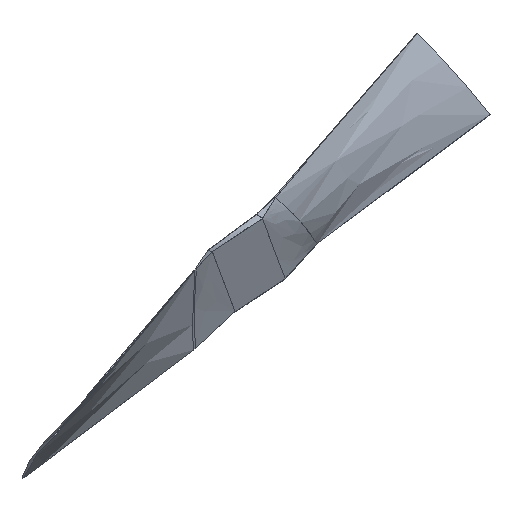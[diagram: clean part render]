
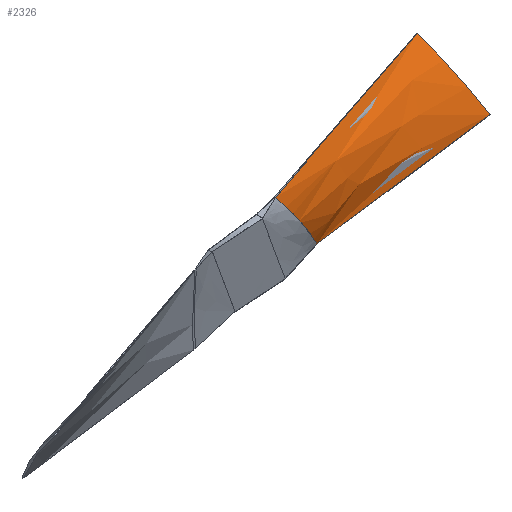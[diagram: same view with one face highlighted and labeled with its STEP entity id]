
A CAD part, isometric view. The second image highlights one B-rep face of the part: STEP entity #2326.
In plain terms, the highlighted free-form (B-spline) face has degree [3, 3] with [5, 4] control points.
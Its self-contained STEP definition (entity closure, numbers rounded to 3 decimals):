
#2245=CARTESIAN_POINT('Control Point',(133.487,64.891,10.212)) ;
#2246=CARTESIAN_POINT('Control Point',(100.569,69.587,0.027)) ;
#2247=CARTESIAN_POINT('Control Point',(67.652,74.284,-10.157)) ;
#2248=CARTESIAN_POINT('Control Point',(34.735,78.981,-20.342)) ;
#2249=CARTESIAN_POINT('Control Point',(130.667,68.243,16.946)) ;
#2250=CARTESIAN_POINT('Control Point',(98.053,71.058,6.554)) ;
#2251=CARTESIAN_POINT('Control Point',(65.439,73.872,-3.838)) ;
#2252=CARTESIAN_POINT('Control Point',(32.824,76.686,-14.23)) ;
#2253=CARTESIAN_POINT('Control Point',(125.086,76.101,29.862)) ;
#2254=CARTESIAN_POINT('Control Point',(92.888,75.508,19.463)) ;
#2255=CARTESIAN_POINT('Control Point',(60.689,74.915,9.065)) ;
#2256=CARTESIAN_POINT('Control Point',(28.491,74.322,-1.334)) ;
#2257=CARTESIAN_POINT('Control Point',(119.755,86.045,41.371)) ;
#2258=CARTESIAN_POINT('Control Point',(87.72,82.925,31.374)) ;
#2259=CARTESIAN_POINT('Control Point',(55.685,79.806,21.377)) ;
#2260=CARTESIAN_POINT('Control Point',(23.649,76.686,11.38)) ;
#2261=CARTESIAN_POINT('Control Point',(117.187,91.482,46.697)) ;
#2262=CARTESIAN_POINT('Control Point',(85.206,87.315,36.903)) ;
#2263=CARTESIAN_POINT('Control Point',(53.225,83.148,27.109)) ;
#2264=CARTESIAN_POINT('Control Point',(21.245,78.981,17.315)) ;
#2266=CARTESIAN_POINT('Control Point',(117.187,91.482,46.697)) ;
#2267=CARTESIAN_POINT('Control Point',(85.206,87.315,36.903)) ;
#2268=CARTESIAN_POINT('Control Point',(53.225,83.148,27.109)) ;
#2269=CARTESIAN_POINT('Control Point',(21.245,78.981,17.315)) ;
#2270=CARTESIAN_POINT('Vertex',(117.189,91.478,46.694)) ;
#2272=CARTESIAN_POINT('Vertex',(21.245,78.981,17.315)) ;
#2276=CARTESIAN_POINT('Control Point',(21.245,78.981,17.314)) ;
#2277=CARTESIAN_POINT('Control Point',(22.968,78.042,14.867)) ;
#2278=CARTESIAN_POINT('Control Point',(25.019,77.102,11.93)) ;
#2279=CARTESIAN_POINT('Control Point',(27.237,76.352,8.686)) ;
#2280=CARTESIAN_POINT('Control Point',(29.562,75.846,5.221)) ;
#2281=CARTESIAN_POINT('Control Point',(31.953,75.628,1.602)) ;
#2282=CARTESIAN_POINT('Vertex',(31.953,75.628,1.602)) ;
#2286=CARTESIAN_POINT('Control Point',(31.953,75.628,1.602)) ;
#2287=CARTESIAN_POINT('Control Point',(32.266,75.599,1.129)) ;
#2288=CARTESIAN_POINT('Control Point',(32.577,75.577,0.657)) ;
#2289=CARTESIAN_POINT('Control Point',(32.895,75.56,0.172)) ;
#2290=CARTESIAN_POINT('Vertex',(32.895,75.56,0.172)) ;
#2294=CARTESIAN_POINT('Control Point',(32.895,75.56,0.172)) ;
#2295=CARTESIAN_POINT('Control Point',(35.536,75.422,-3.843)) ;
#2296=CARTESIAN_POINT('Control Point',(38.041,75.652,-7.73)) ;
#2297=CARTESIAN_POINT('Control Point',(40.363,76.174,-11.402)) ;
#2298=CARTESIAN_POINT('Control Point',(42.452,76.911,-14.733)) ;
#2299=CARTESIAN_POINT('Control Point',(44.118,77.641,-17.434)) ;
#2300=CARTESIAN_POINT('Vertex',(44.118,77.641,-17.434)) ;
#2304=CARTESIAN_POINT('Control Point',(133.487,64.891,10.212)) ;
#2305=CARTESIAN_POINT('Control Point',(103.698,69.141,0.995)) ;
#2306=CARTESIAN_POINT('Control Point',(73.91,73.391,-8.221)) ;
#2307=CARTESIAN_POINT('Control Point',(44.121,77.642,-17.438)) ;
#2308=CARTESIAN_POINT('Vertex',(133.487,64.891,10.212)) ;
#2312=CARTESIAN_POINT('Control Point',(133.487,64.891,10.212)) ;
#2313=CARTESIAN_POINT('Control Point',(130.667,68.243,16.946)) ;
#2314=CARTESIAN_POINT('Control Point',(125.086,76.101,29.86)) ;
#2315=CARTESIAN_POINT('Control Point',(119.757,86.042,41.368)) ;
#2316=CARTESIAN_POINT('Control Point',(117.189,91.478,46.694)) ;
#2319=ORIENTED_EDGE('',*,*,#2274,.T.) ;
#2320=ORIENTED_EDGE('',*,*,#2284,.T.) ;
#2321=ORIENTED_EDGE('',*,*,#2292,.T.) ;
#2322=ORIENTED_EDGE('',*,*,#2302,.T.) ;
#2323=ORIENTED_EDGE('',*,*,#2310,.T.) ;
#2324=ORIENTED_EDGE('',*,*,#2317,.T.) ;
#2326=ADVANCED_FACE('ADVANCED_FACE #139',(#2325),#2244,.T.) ;
#2265=B_SPLINE_CURVE_WITH_KNOTS('',3,(#2266,#2267,#2268,#2269),.UNSPECIFIED.,.F.,.U.,(4,4),(0.,102.222),.UNSPECIFIED.) ;
#2275=B_SPLINE_CURVE_WITH_KNOTS('',5,(#2276,#2277,#2278,#2279,#2280,#2281),.UNSPECIFIED.,.F.,.U.,(6,6),(0.,28.559),.UNSPECIFIED.) ;
#2285=B_SPLINE_CURVE_WITH_KNOTS('',3,(#2286,#2287,#2288,#2289),.UNSPECIFIED.,.F.,.U.,(4,4),(0.,2.243),.UNSPECIFIED.) ;
#2293=B_SPLINE_CURVE_WITH_KNOTS('',5,(#2294,#2295,#2296,#2297,#2298,#2299),.UNSPECIFIED.,.F.,.U.,(6,6),(0.,30.984),.UNSPECIFIED.) ;
#2303=B_SPLINE_CURVE_WITH_KNOTS('',3,(#2304,#2305,#2306,#2307),.UNSPECIFIED.,.F.,.U.,(4,4),(0.,92.506),.UNSPECIFIED.) ;
#2311=B_SPLINE_CURVE_WITH_KNOTS('',3,(#2312,#2313,#2314,#2315,#2316),.UNSPECIFIED.,.F.,.U.,(4,1,4),(0.,21.872,43.739),.UNSPECIFIED.) ;
#2244=B_SPLINE_SURFACE_WITH_KNOTS('',3,3,((#2245,#2246,#2247,#2248),(#2249,#2250,#2251,#2252),(#2253,#2254,#2255,#2256),(#2257,#2258,#2259,#2260),(#2261,#2262,#2263,#2264)),.UNSPECIFIED.,.F.,.F.,.U.,(4,1,4),(4,4),(0.,21.872,43.744),(0.,102.222),.UNSPECIFIED.) ;
#2274=EDGE_CURVE('',#2271,#2273,#2265,.T.) ;
#2284=EDGE_CURVE('',#2273,#2283,#2275,.T.) ;
#2292=EDGE_CURVE('',#2283,#2291,#2285,.T.) ;
#2302=EDGE_CURVE('',#2291,#2301,#2293,.T.) ;
#2310=EDGE_CURVE('',#2301,#2309,#2303,.F.) ;
#2317=EDGE_CURVE('',#2309,#2271,#2311,.T.) ;
#2318=EDGE_LOOP('',(#2319,#2320,#2321,#2322,#2323,#2324)) ;
#2325=FACE_OUTER_BOUND('',#2318,.T.) ;
#2271=VERTEX_POINT('',#2270) ;
#2273=VERTEX_POINT('',#2272) ;
#2283=VERTEX_POINT('',#2282) ;
#2291=VERTEX_POINT('',#2290) ;
#2301=VERTEX_POINT('',#2300) ;
#2309=VERTEX_POINT('',#2308) ;
